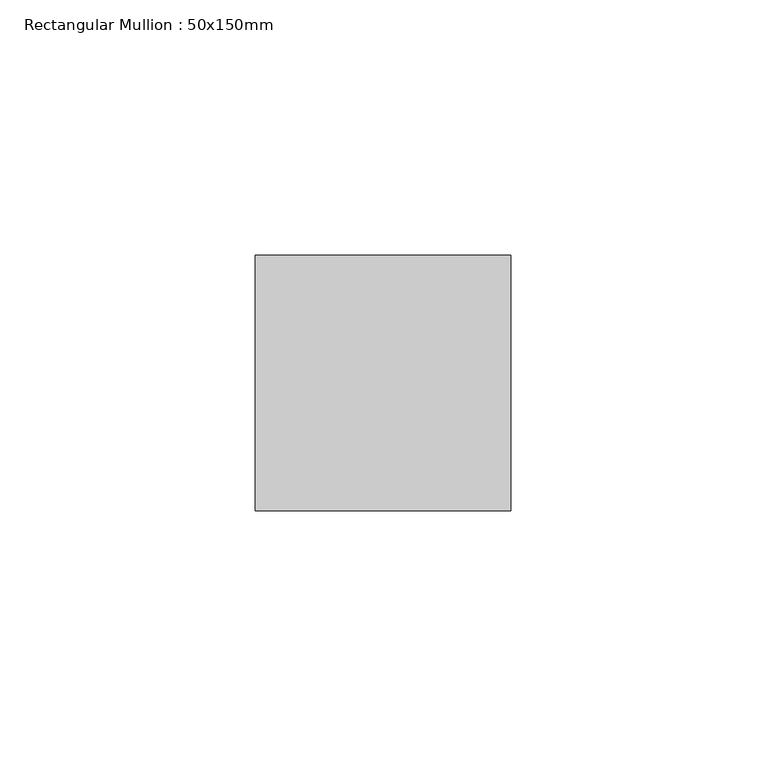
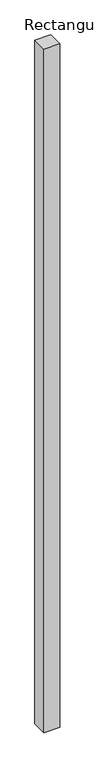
"""IFC4 building model written with IfcOpenShell, lengths in millimetres: member geometry, Rectangular Mullion : 50x150mm."""

from ifc_helpers import new_model, si_unit, frame, origin, place, context, project, spatial, polyline, outline, extrude, source, transform, mapped, element, save


def rectangular_mullion_50x150mm_3dc05bec(model_context):
    return source(origin(), model_context, "Body", "SweptSolid", [
        extrude(outline(polyline([(0.0, 25.0), (0.0, -25.0), (-50.0, -25.0), (-50.0, 25.0), (0.0, 25.0)])), frame((0.0, 0.0, -2300.0), z_axis=(0.0, 0.0, 1.0), x_axis=(1.0, 0.0, 0.0)), (0.0, 0.0, 1.0), 2300.0),
    ])


if __name__ == "__main__":
    model = new_model("IFC4")
    model_context = context("Model", 3, world=origin())
    ifc_project = project(units=[si_unit("LENGTHUNIT", "METRE", prefix="MILLI")], contexts=[model_context])
    site = spatial("IfcSite", under=ifc_project)
    building = spatial("IfcBuilding", under=site)
    placement = place(None, origin())
    rectangular_mullion_50x150mm_shape = rectangular_mullion_50x150mm_3dc05bec(model_context)
    element("IfcMember", 1, ObjectType="Rectangular Mullion : 50x150mm", at=placement, inside=building, context=model_context, shape_type="MappedRepresentation", body=[
        mapped(rectangular_mullion_50x150mm_shape, transform((0.0, 0.0, 0.0), x_axis=(1.0, 0.0, 0.0), y_axis=(0.0, 1.0, 0.0), z_axis=(0.0, 0.0, 1.0))),
    ])
    save(model, "model.ifc")
